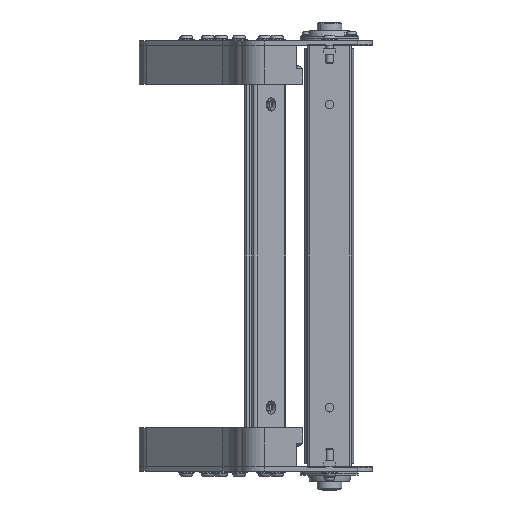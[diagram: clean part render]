
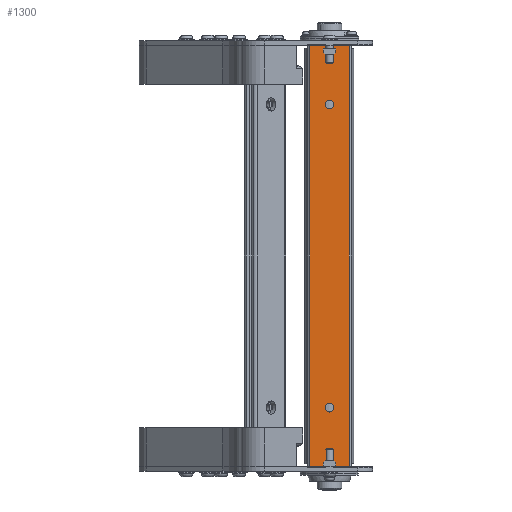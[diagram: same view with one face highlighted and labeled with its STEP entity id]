
A CAD part, left-side view. The second image highlights one B-rep face of the part: STEP entity #1300.
In plain terms, the highlighted planar face has unit normal (-1, 0, 0) as drawn and (0, 0, -1) by its records, which use the part's own axes.
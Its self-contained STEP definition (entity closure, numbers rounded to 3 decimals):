
#204 = EDGE_CURVE ( 'NONE', #12842, #14613, #4346, .T. ) ;
#1193 = CARTESIAN_POINT ( 'NONE',  ( 214.5, 20., -9.25 ) ) ;
#1300 = ADVANCED_FACE ( 'NONE', ( #21104, #15586, #18224 ), #6348, .F. ) ;
#1739 = VERTEX_POINT ( 'NONE', #19291 ) ;
#1781 = VERTEX_POINT ( 'NONE', #12621 ) ;
#1862 = EDGE_CURVE ( 'NONE', #14328, #1739, #2504, .T. ) ;
#1971 = CARTESIAN_POINT ( 'NONE',  ( -214.5, -20., -9.25 ) ) ;
#2145 = AXIS2_PLACEMENT_3D ( 'NONE', #2785, #4454, #6347 ) ;
#2367 = EDGE_CURVE ( 'NONE', #2724, #11890, #13750, .T. ) ;
#2504 = CIRCLE ( 'NONE', #12467, 4.5 ) ;
#2724 = VERTEX_POINT ( 'NONE', #6751 ) ;
#2785 = CARTESIAN_POINT ( 'NONE',  ( 154.5, 0., -9.25 ) ) ;
#2933 = DIRECTION ( 'NONE',  ( 1., 0., 0. ) ) ;
#3184 = EDGE_CURVE ( 'NONE', #1781, #4070, #9748, .T. ) ;
#3354 = AXIS2_PLACEMENT_3D ( 'NONE', #19758, #9692, #21427 ) ;
#3498 = ORIENTED_EDGE ( 'NONE', *, *, #20023, .T. ) ;
#3729 = ORIENTED_EDGE ( 'NONE', *, *, #16825, .T. ) ;
#4070 = VERTEX_POINT ( 'NONE', #18419 ) ;
#4346 = LINE ( 'NONE', #5925, #11399 ) ;
#4454 = DIRECTION ( 'NONE',  ( 0., 0., 1. ) ) ;
#5031 = CIRCLE ( 'NONE', #15335, 4.5 ) ;
#5313 = VECTOR ( 'NONE', #21227, 1000. ) ;
#5334 = CARTESIAN_POINT ( 'NONE',  ( 154.5, 0., -9.25 ) ) ;
#5780 = AXIS2_PLACEMENT_3D ( 'NONE', #21289, #7884, #2933 ) ;
#5925 = CARTESIAN_POINT ( 'NONE',  ( -214.5, 20., -9.25 ) ) ;
#6347 = DIRECTION ( 'NONE',  ( 1., 0., 0. ) ) ;
#6348 = PLANE ( 'NONE',  #3354 ) ;
#6751 = CARTESIAN_POINT ( 'NONE',  ( 214.5, -20., -9.25 ) ) ;
#6770 = VECTOR ( 'NONE', #8544, 1000. ) ;
#7529 = DIRECTION ( 'NONE',  ( 0., 1., 0. ) ) ;
#7884 = DIRECTION ( 'NONE',  ( 0., 0., 1. ) ) ;
#7931 = DIRECTION ( 'NONE',  ( 0., 0., 1. ) ) ;
#7953 = ORIENTED_EDGE ( 'NONE', *, *, #17124, .T. ) ;
#8389 = CIRCLE ( 'NONE', #5780, 4.5 ) ;
#8460 = DIRECTION ( 'NONE',  ( 1., 0., 0. ) ) ;
#8544 = DIRECTION ( 'NONE',  ( -1., 0., 0. ) ) ;
#8758 = CARTESIAN_POINT ( 'NONE',  ( -150., 0., -9.25 ) ) ;
#8822 = EDGE_LOOP ( 'NONE', ( #14075, #3729 ) ) ;
#8967 = CARTESIAN_POINT ( 'NONE',  ( 214.5, 20., -9.25 ) ) ;
#9381 = CARTESIAN_POINT ( 'NONE',  ( -154.5, 0., -9.25 ) ) ;
#9524 = DIRECTION ( 'NONE',  ( 1., 0., 0. ) ) ;
#9570 = DIRECTION ( 'NONE',  ( 0., 1., 0. ) ) ;
#9692 = DIRECTION ( 'NONE',  ( 0., 0., 1. ) ) ;
#9748 = CIRCLE ( 'NONE', #2145, 4.5 ) ;
#11399 = VECTOR ( 'NONE', #7529, 1000. ) ;
#11890 = VERTEX_POINT ( 'NONE', #8967 ) ;
#11967 = ORIENTED_EDGE ( 'NONE', *, *, #2367, .F. ) ;
#12070 = EDGE_LOOP ( 'NONE', ( #17793, #12086, #11967, #3498 ) ) ;
#12086 = ORIENTED_EDGE ( 'NONE', *, *, #16221, .F. ) ;
#12467 = AXIS2_PLACEMENT_3D ( 'NONE', #9381, #7931, #9524 ) ;
#12621 = CARTESIAN_POINT ( 'NONE',  ( 159., 0., -9.25 ) ) ;
#12842 = VERTEX_POINT ( 'NONE', #1971 ) ;
#12871 = LINE ( 'NONE', #16401, #5313 ) ;
#13750 = LINE ( 'NONE', #1193, #17145 ) ;
#14075 = ORIENTED_EDGE ( 'NONE', *, *, #1862, .T. ) ;
#14328 = VERTEX_POINT ( 'NONE', #8758 ) ;
#14613 = VERTEX_POINT ( 'NONE', #19541 ) ;
#15335 = AXIS2_PLACEMENT_3D ( 'NONE', #5334, #18516, #8460 ) ;
#15586 = FACE_BOUND ( 'NONE', #20258, .T. ) ;
#16221 = EDGE_CURVE ( 'NONE', #11890, #14613, #12871, .T. ) ;
#16401 = CARTESIAN_POINT ( 'NONE',  ( 214.5, 20., -9.25 ) ) ;
#16825 = EDGE_CURVE ( 'NONE', #1739, #14328, #8389, .T. ) ;
#16902 = CARTESIAN_POINT ( 'NONE',  ( 214.5, -20., -9.25 ) ) ;
#17124 = EDGE_CURVE ( 'NONE', #4070, #1781, #5031, .T. ) ;
#17145 = VECTOR ( 'NONE', #9570, 1000. ) ;
#17793 = ORIENTED_EDGE ( 'NONE', *, *, #204, .T. ) ;
#18224 = FACE_OUTER_BOUND ( 'NONE', #12070, .T. ) ;
#18419 = CARTESIAN_POINT ( 'NONE',  ( 150., 0., -9.25 ) ) ;
#18516 = DIRECTION ( 'NONE',  ( 0., 0., 1. ) ) ;
#19291 = CARTESIAN_POINT ( 'NONE',  ( -159., 0., -9.25 ) ) ;
#19541 = CARTESIAN_POINT ( 'NONE',  ( -214.5, 20., -9.25 ) ) ;
#19758 = CARTESIAN_POINT ( 'NONE',  ( 214.5, 20., -9.25 ) ) ;
#20023 = EDGE_CURVE ( 'NONE', #2724, #12842, #20649, .T. ) ;
#20258 = EDGE_LOOP ( 'NONE', ( #21433, #7953 ) ) ;
#20649 = LINE ( 'NONE', #16902, #6770 ) ;
#21104 = FACE_BOUND ( 'NONE', #8822, .T. ) ;
#21227 = DIRECTION ( 'NONE',  ( -1., 0., 0. ) ) ;
#21289 = CARTESIAN_POINT ( 'NONE',  ( -154.5, 0., -9.25 ) ) ;
#21427 = DIRECTION ( 'NONE',  ( 0., -1., 0. ) ) ;
#21433 = ORIENTED_EDGE ( 'NONE', *, *, #3184, .T. ) ;
